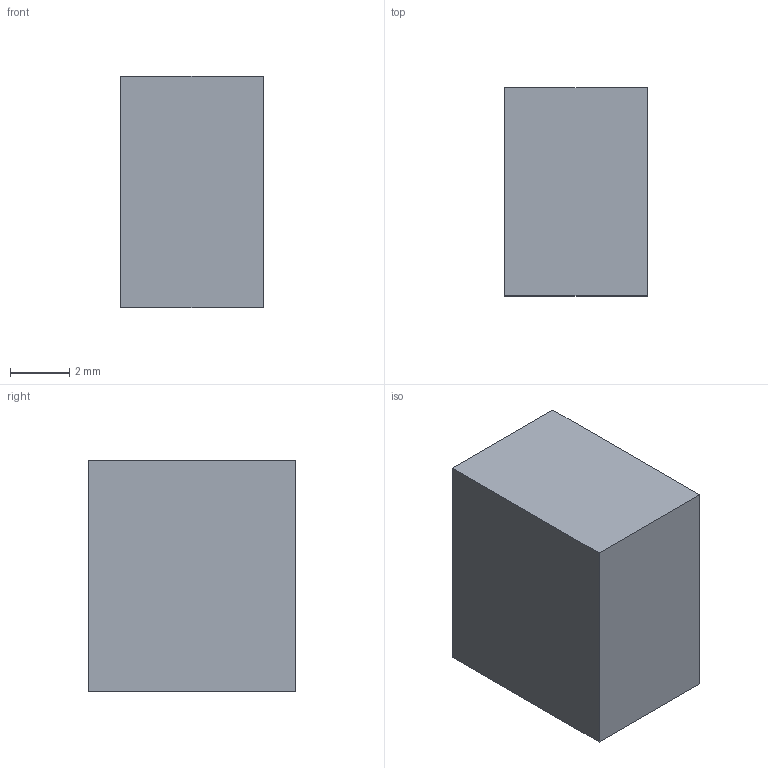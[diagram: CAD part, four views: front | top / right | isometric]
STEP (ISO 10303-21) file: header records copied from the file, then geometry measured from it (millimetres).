
FILE_DESCRIPTION(('Open CASCADE Model'),'2;1');
FILE_NAME('Open CASCADE Shape Model','2026-09-24T05:33:22',('Author'),( 'Open CASCADE'),'Open CASCADE STEP processor 7.8','Open CASCADE 7.8' ,'Unknown');
FILE_SCHEMA(('AUTOMOTIVE_DESIGN { 1 0 10303 214 1 1 1 1 }'));
Length unit declared in the file: millimetre
Products named in the file (1): Open CASCADE STEP translator 7.8 61
Bounding box: 4.8 x 7 x 7.8 mm (x, y, z)
Volume: 262.1 mm3; surface area: 251.3 mm2
Topology: 1 solids, 1 shells, 6 faces, 12 edges, 8 vertices
Faces by surface type: plane 6
Entity records: 322 total; most frequent: CARTESIAN_POINT 51, DIRECTION 50, LINE 36, VECTOR 36, ORIENTED_EDGE 24, PCURVE 24, DEFINITIONAL_REPRESENTATION 24, EDGE_CURVE 12
